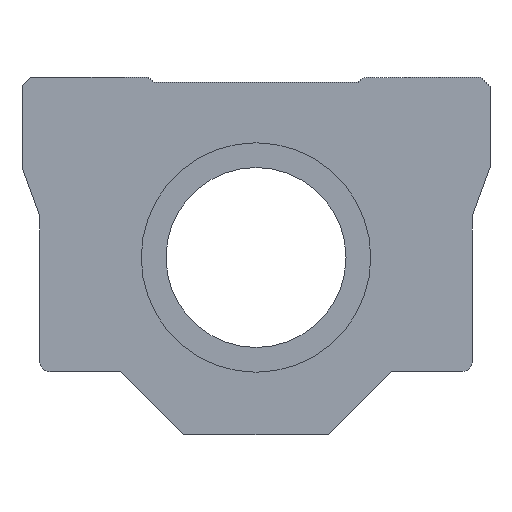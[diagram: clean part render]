
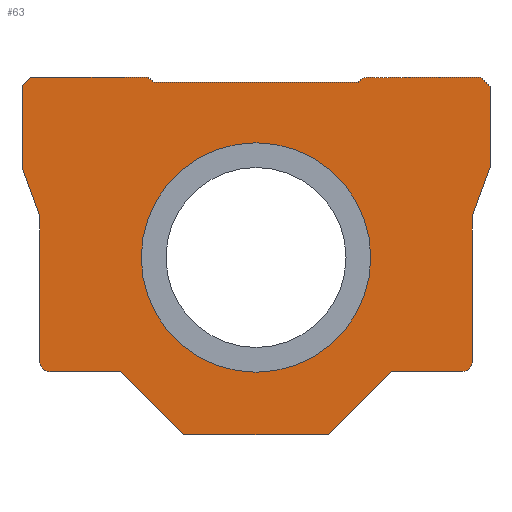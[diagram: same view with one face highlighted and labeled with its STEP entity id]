
A CAD part, left-side view. The second image highlights one B-rep face of the part: STEP entity #63.
In plain terms, the highlighted planar face has unit normal (-1, 0, 0).
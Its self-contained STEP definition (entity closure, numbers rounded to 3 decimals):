
#63 = ADVANCED_FACE( '', ( #158, #159 ), #160, .F. );
#158 = FACE_BOUND( '', #309, .T. );
#159 = FACE_OUTER_BOUND( '', #310, .T. );
#160 = PLANE( '', #311 );
#309 = EDGE_LOOP( '', ( #454 ) );
#310 = EDGE_LOOP( '', ( #455, #456, #457, #458, #459, #460, #461, #462, #463, #464, #465, #466, #467, #468, #469, #470, #471, #472, #473, #474 ) );
#311 = AXIS2_PLACEMENT_3D( '', #475, #476, #477 );
#454 = ORIENTED_EDGE( '', *, *, #774, .T. );
#455 = ORIENTED_EDGE( '', *, *, #775, .F. );
#456 = ORIENTED_EDGE( '', *, *, #776, .F. );
#457 = ORIENTED_EDGE( '', *, *, #777, .F. );
#458 = ORIENTED_EDGE( '', *, *, #778, .F. );
#459 = ORIENTED_EDGE( '', *, *, #779, .F. );
#460 = ORIENTED_EDGE( '', *, *, #780, .F. );
#461 = ORIENTED_EDGE( '', *, *, #781, .F. );
#462 = ORIENTED_EDGE( '', *, *, #782, .F. );
#463 = ORIENTED_EDGE( '', *, *, #783, .F. );
#464 = ORIENTED_EDGE( '', *, *, #784, .F. );
#465 = ORIENTED_EDGE( '', *, *, #785, .T. );
#466 = ORIENTED_EDGE( '', *, *, #786, .T. );
#467 = ORIENTED_EDGE( '', *, *, #787, .T. );
#468 = ORIENTED_EDGE( '', *, *, #788, .F. );
#469 = ORIENTED_EDGE( '', *, *, #789, .F. );
#470 = ORIENTED_EDGE( '', *, *, #790, .F. );
#471 = ORIENTED_EDGE( '', *, *, #791, .F. );
#472 = ORIENTED_EDGE( '', *, *, #792, .F. );
#473 = ORIENTED_EDGE( '', *, *, #793, .F. );
#474 = ORIENTED_EDGE( '', *, *, #794, .F. );
#475 = CARTESIAN_POINT( '', ( 0., 0., 0. ) );
#476 = DIRECTION( '', ( 1., 0., 0. ) );
#477 = DIRECTION( '', ( 0., 1., 0. ) );
#774 = EDGE_CURVE( '', #895, #895, #896, .T. );
#775 = EDGE_CURVE( '', #897, #898, #899, .T. );
#776 = EDGE_CURVE( '', #900, #897, #901, .T. );
#777 = EDGE_CURVE( '', #902, #900, #903, .T. );
#778 = EDGE_CURVE( '', #904, #902, #905, .T. );
#779 = EDGE_CURVE( '', #906, #904, #907, .T. );
#780 = EDGE_CURVE( '', #908, #906, #909, .T. );
#781 = EDGE_CURVE( '', #910, #908, #911, .T. );
#782 = EDGE_CURVE( '', #912, #910, #913, .T. );
#783 = EDGE_CURVE( '', #914, #912, #915, .T. );
#784 = EDGE_CURVE( '', #916, #914, #917, .T. );
#785 = EDGE_CURVE( '', #916, #918, #919, .T. );
#786 = EDGE_CURVE( '', #918, #920, #921, .T. );
#787 = EDGE_CURVE( '', #920, #922, #923, .T. );
#788 = EDGE_CURVE( '', #924, #922, #925, .T. );
#789 = EDGE_CURVE( '', #926, #924, #927, .T. );
#790 = EDGE_CURVE( '', #928, #926, #929, .T. );
#791 = EDGE_CURVE( '', #930, #928, #931, .T. );
#792 = EDGE_CURVE( '', #932, #930, #933, .T. );
#793 = EDGE_CURVE( '', #934, #932, #935, .T. );
#794 = EDGE_CURVE( '', #898, #934, #936, .T. );
#895 = VERTEX_POINT( '', #1078 );
#896 = CIRCLE( '', #1079, 19.125 );
#897 = VERTEX_POINT( '', #1080 );
#898 = VERTEX_POINT( '', #1081 );
#899 = LINE( '', #1082, #1083 );
#900 = VERTEX_POINT( '', #1084 );
#901 = LINE( '', #1085, #1086 );
#902 = VERTEX_POINT( '', #1087 );
#903 = LINE( '', #1088, #1089 );
#904 = VERTEX_POINT( '', #1090 );
#905 = LINE( '', #1091, #1092 );
#906 = VERTEX_POINT( '', #1093 );
#907 = CIRCLE( '', #1094, 1.5 );
#908 = VERTEX_POINT( '', #1095 );
#909 = LINE( '', #1096, #1097 );
#910 = VERTEX_POINT( '', #1098 );
#911 = LINE( '', #1099, #1100 );
#912 = VERTEX_POINT( '', #1101 );
#913 = LINE( '', #1102, #1103 );
#914 = VERTEX_POINT( '', #1104 );
#915 = LINE( '', #1105, #1106 );
#916 = VERTEX_POINT( '', #1107 );
#917 = LINE( '', #1108, #1109 );
#918 = VERTEX_POINT( '', #1110 );
#919 = LINE( '', #1111, #1112 );
#920 = VERTEX_POINT( '', #1113 );
#921 = LINE( '', #1114, #1115 );
#922 = VERTEX_POINT( '', #1116 );
#923 = LINE( '', #1117, #1118 );
#924 = VERTEX_POINT( '', #1119 );
#925 = LINE( '', #1120, #1121 );
#926 = VERTEX_POINT( '', #1122 );
#927 = LINE( '', #1123, #1124 );
#928 = VERTEX_POINT( '', #1125 );
#929 = LINE( '', #1126, #1127 );
#930 = VERTEX_POINT( '', #1128 );
#931 = LINE( '', #1129, #1130 );
#932 = VERTEX_POINT( '', #1131 );
#933 = LINE( '', #1132, #1133 );
#934 = VERTEX_POINT( '', #1134 );
#935 = CIRCLE( '', #1135, 1.5 );
#936 = LINE( '', #1136, #1137 );
#1078 = CARTESIAN_POINT( '', ( 0., 19.125, 0. ) );
#1079 = AXIS2_PLACEMENT_3D( '', #1316, #1317, #1318 );
#1080 = CARTESIAN_POINT( '', ( 0., 12.067, -29.5 ) );
#1081 = CARTESIAN_POINT( '', ( 0., 22.567, -19. ) );
#1082 = CARTESIAN_POINT( '', ( 0., 20.783, -20.783 ) );
#1083 = VECTOR( '', #1319, 1000. );
#1084 = CARTESIAN_POINT( '', ( 0., -12.067, -29.5 ) );
#1085 = CARTESIAN_POINT( '', ( 0., -12.067, -29.5 ) );
#1086 = VECTOR( '', #1320, 1000. );
#1087 = CARTESIAN_POINT( '', ( 0., -22.567, -19. ) );
#1088 = CARTESIAN_POINT( '', ( 0., -20.783, -20.783 ) );
#1089 = VECTOR( '', #1321, 1000. );
#1090 = CARTESIAN_POINT( '', ( 0., -34.5, -19. ) );
#1091 = CARTESIAN_POINT( '', ( 0., -34.5, -19. ) );
#1092 = VECTOR( '', #1322, 1000. );
#1093 = CARTESIAN_POINT( '', ( 0., -36., -17.5 ) );
#1094 = AXIS2_PLACEMENT_3D( '', #1323, #1324, #1325 );
#1095 = CARTESIAN_POINT( '', ( 0., -36., 6.758 ) );
#1096 = CARTESIAN_POINT( '', ( 0., -36., 6.758 ) );
#1097 = VECTOR( '', #1326, 1000. );
#1098 = CARTESIAN_POINT( '', ( 0., -39., 15. ) );
#1099 = CARTESIAN_POINT( '', ( 0., -39., 15. ) );
#1100 = VECTOR( '', #1327, 1000. );
#1101 = CARTESIAN_POINT( '', ( 0., -39., 28.5 ) );
#1102 = CARTESIAN_POINT( '', ( 0., -39., 28.5 ) );
#1103 = VECTOR( '', #1328, 1000. );
#1104 = CARTESIAN_POINT( '', ( 0., -37.5, 30. ) );
#1105 = CARTESIAN_POINT( '', ( 0., -37.5, 30. ) );
#1106 = VECTOR( '', #1329, 1000. );
#1107 = CARTESIAN_POINT( '', ( 0., -18., 30. ) );
#1108 = CARTESIAN_POINT( '', ( 0., 37.5, 30. ) );
#1109 = VECTOR( '', #1330, 1000. );
#1110 = CARTESIAN_POINT( '', ( 0., -17., 29.25 ) );
#1111 = CARTESIAN_POINT( '', ( 0., -4.54, 19.905 ) );
#1112 = VECTOR( '', #1331, 1000. );
#1113 = CARTESIAN_POINT( '', ( 0., 17., 29.25 ) );
#1114 = CARTESIAN_POINT( '', ( 0., 8.5, 29.25 ) );
#1115 = VECTOR( '', #1332, 1000. );
#1116 = CARTESIAN_POINT( '', ( 0., 18., 30. ) );
#1117 = CARTESIAN_POINT( '', ( 0., 5.04, 20.28 ) );
#1118 = VECTOR( '', #1333, 1000. );
#1119 = CARTESIAN_POINT( '', ( 0., 37.5, 30. ) );
#1120 = CARTESIAN_POINT( '', ( 0., 37.5, 30. ) );
#1121 = VECTOR( '', #1334, 1000. );
#1122 = CARTESIAN_POINT( '', ( 0., 39., 28.5 ) );
#1123 = CARTESIAN_POINT( '', ( 0., 39., 28.5 ) );
#1124 = VECTOR( '', #1335, 1000. );
#1125 = CARTESIAN_POINT( '', ( 0., 39., 15. ) );
#1126 = CARTESIAN_POINT( '', ( 0., 39., 15. ) );
#1127 = VECTOR( '', #1336, 1000. );
#1128 = CARTESIAN_POINT( '', ( 0., 36., 6.758 ) );
#1129 = CARTESIAN_POINT( '', ( 0., 36., 6.758 ) );
#1130 = VECTOR( '', #1337, 1000. );
#1131 = CARTESIAN_POINT( '', ( 0., 36., -17.5 ) );
#1132 = CARTESIAN_POINT( '', ( 0., 36., -17.5 ) );
#1133 = VECTOR( '', #1338, 1000. );
#1134 = CARTESIAN_POINT( '', ( 0., 34.5, -19. ) );
#1135 = AXIS2_PLACEMENT_3D( '', #1339, #1340, #1341 );
#1136 = CARTESIAN_POINT( '', ( 0., 22.567, -19. ) );
#1137 = VECTOR( '', #1342, 1000. );
#1316 = CARTESIAN_POINT( '', ( 0., 0., 0. ) );
#1317 = DIRECTION( '', ( 1., 0., 0. ) );
#1318 = DIRECTION( '', ( 0., 1., 0. ) );
#1319 = DIRECTION( '', ( 0., 0.707, 0.707 ) );
#1320 = DIRECTION( '', ( 0., 1., 0. ) );
#1321 = DIRECTION( '', ( 0., 0.707, -0.707 ) );
#1322 = DIRECTION( '', ( 0., 1., 0. ) );
#1323 = CARTESIAN_POINT( '', ( 0., -34.5, -17.5 ) );
#1324 = DIRECTION( '', ( 1., 0., 0. ) );
#1325 = DIRECTION( '', ( 0., -1., 0. ) );
#1326 = DIRECTION( '', ( 0., 0., -1. ) );
#1327 = DIRECTION( '', ( 0., 0.342, -0.94 ) );
#1328 = DIRECTION( '', ( 0., 0., -1. ) );
#1329 = DIRECTION( '', ( 0., -0.707, -0.707 ) );
#1330 = DIRECTION( '', ( 0., -1., 0. ) );
#1331 = DIRECTION( '', ( 0., 0.8, -0.6 ) );
#1332 = DIRECTION( '', ( 0., 1., 0. ) );
#1333 = DIRECTION( '', ( 0., 0.8, 0.6 ) );
#1334 = DIRECTION( '', ( 0., -1., 0. ) );
#1335 = DIRECTION( '', ( 0., -0.707, 0.707 ) );
#1336 = DIRECTION( '', ( 0., 0., 1. ) );
#1337 = DIRECTION( '', ( 0., 0.342, 0.94 ) );
#1338 = DIRECTION( '', ( 0., 0., 1. ) );
#1339 = CARTESIAN_POINT( '', ( 0., 34.5, -17.5 ) );
#1340 = DIRECTION( '', ( 1., 0., 0. ) );
#1341 = DIRECTION( '', ( 0., 0., -1. ) );
#1342 = DIRECTION( '', ( 0., 1., 0. ) );
